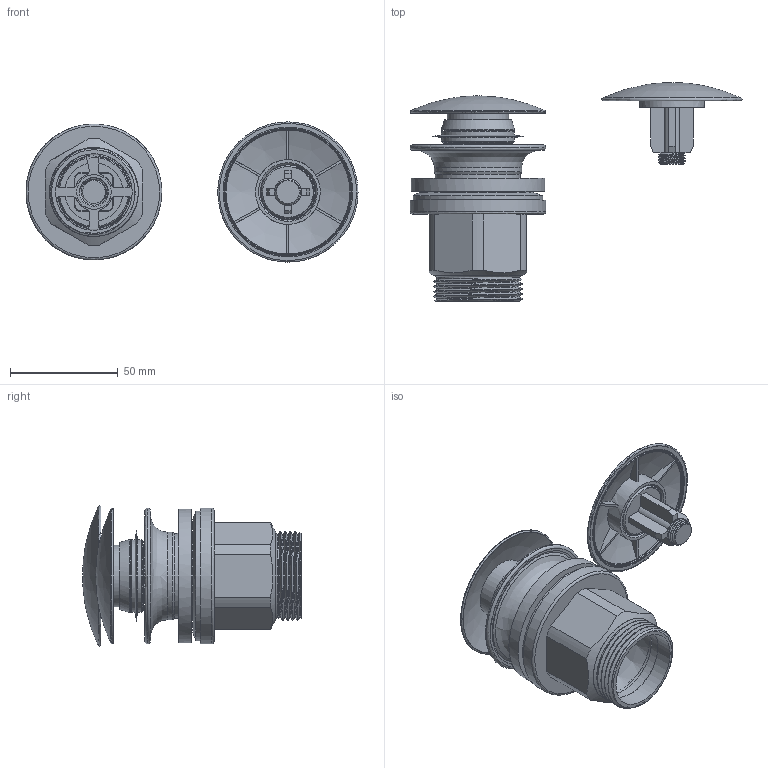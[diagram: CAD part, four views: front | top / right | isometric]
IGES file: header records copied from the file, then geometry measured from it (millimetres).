
Global section: file name: 221e6f00-e295-4ede-95a2-e3d583b665ca; native system: unknown; preprocessor: unknown; author: unknown; organization: unknown; date: 20191212.143403; units: millimetre
Bounding box: 154.01 x 101.5 x 64.98 mm (x, y, z)
Volume: 91228.9 mm3; surface area: 97444.3 mm2
Topology: 12 solids, 13 shells, 615 faces, 1630 edges, 1042 vertices
Faces by surface type: bspline 615
